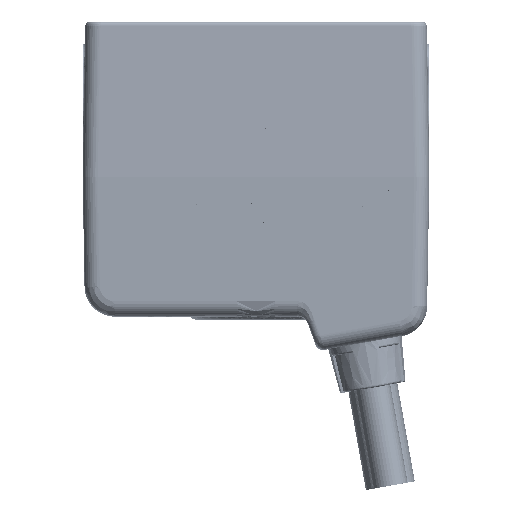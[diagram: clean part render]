
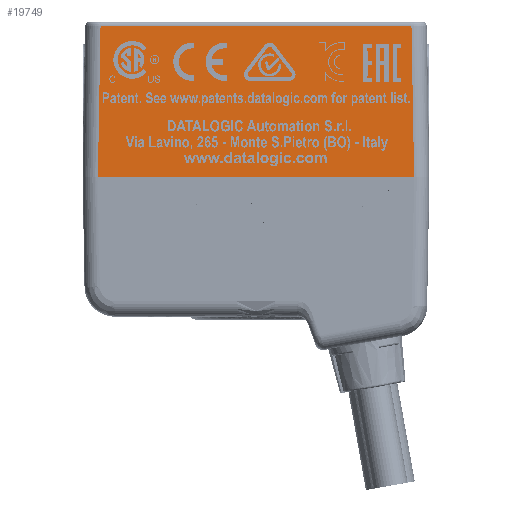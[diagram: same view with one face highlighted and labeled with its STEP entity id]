
A CAD part, top view. The second image highlights one B-rep face of the part: STEP entity #19749.
In plain terms, the highlighted planar face has unit normal (0, 0.018, 1).
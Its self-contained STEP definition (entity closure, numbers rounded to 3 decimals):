
#19749=ADVANCED_FACE('',(#32942),#26087,.T.);
#26087=PLANE('',#165650);
#32942=FACE_OUTER_BOUND('',#42899,.T.);
#42899=EDGE_LOOP('',(#71062,#71063,#71064,#71065));
#71062=ORIENTED_EDGE('',*,*,#120036,.F.);
#71063=ORIENTED_EDGE('',*,*,#120037,.T.);
#71064=ORIENTED_EDGE('',*,*,#120038,.T.);
#71065=ORIENTED_EDGE('',*,*,#120039,.T.);
#102153=VERTEX_POINT('',#251937);
#102154=VERTEX_POINT('',#251938);
#102155=VERTEX_POINT('',#251940);
#102156=VERTEX_POINT('',#251942);
#120036=EDGE_CURVE('',#102153,#102154,#136768,.T.);
#120037=EDGE_CURVE('',#102153,#102155,#136769,.T.);
#120038=EDGE_CURVE('',#102155,#102156,#136770,.T.);
#120039=EDGE_CURVE('',#102156,#102154,#136771,.T.);
#136768=LINE('',#251936,#145615);
#136769=LINE('',#251939,#145616);
#136770=LINE('',#251941,#145617);
#136771=LINE('',#251943,#145618);
#145615=VECTOR('',#194457,1.);
#145616=VECTOR('',#194458,1.);
#145617=VECTOR('',#194459,1.);
#145618=VECTOR('',#194460,1.);
#165650=AXIS2_PLACEMENT_3D('',#251944,#194461,#194462);
#194457=DIRECTION('',(-1.,0.,0.));
#194458=DIRECTION('',(-0.017,1.,-0.017));
#194459=DIRECTION('',(-1.,0.,0.));
#194460=DIRECTION('',(-0.017,-1.,0.017));
#194461=DIRECTION('',(0.,0.017,1.));
#194462=DIRECTION('',(0.,-1.,0.017));
#251936=CARTESIAN_POINT('',(22.7,-5.15,11.75));
#251937=CARTESIAN_POINT('',(20.7,-5.15,11.75));
#251938=CARTESIAN_POINT('',(-20.7,-5.15,11.75));
#251939=CARTESIAN_POINT('',(20.701,-5.185,11.751));
#251940=CARTESIAN_POINT('',(20.354,14.709,11.403));
#251941=CARTESIAN_POINT('',(-22.345,14.709,11.403));
#251942=CARTESIAN_POINT('',(-20.354,14.709,11.403));
#251943=CARTESIAN_POINT('',(-20.687,-4.393,11.737));
#251944=CARTESIAN_POINT('',(22.7,-5.15,11.75));
